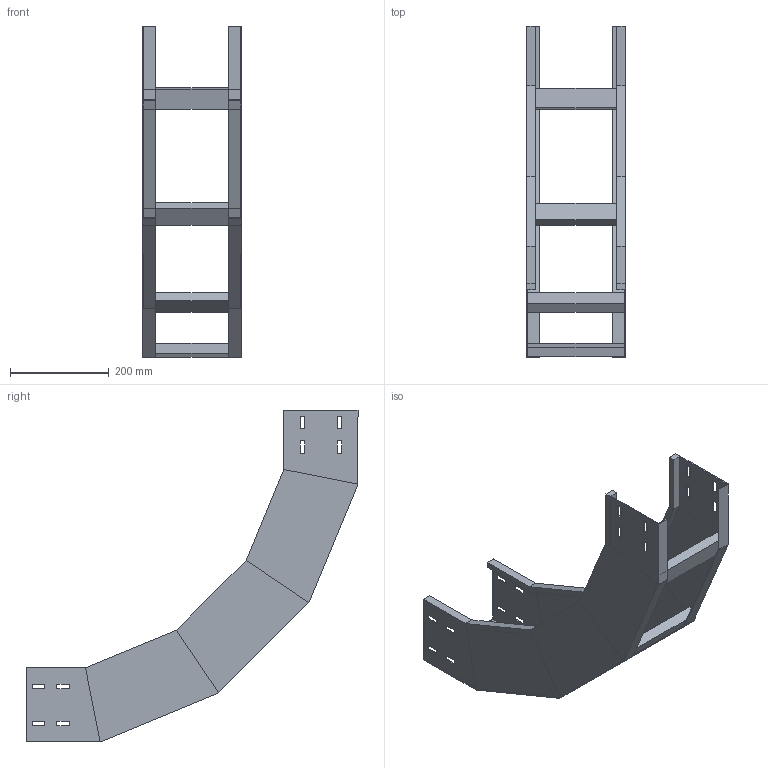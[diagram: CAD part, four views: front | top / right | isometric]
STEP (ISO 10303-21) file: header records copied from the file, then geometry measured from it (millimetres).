
FILE_DESCRIPTION (( 'STEP AP214' ), '1' );
FILE_NAME ('30J5F200.step', '2025-02-21T16:27:14', ( '' ), ( '' ), 'SwSTEP 2.0', 'SolidWorks 2023', '' );
FILE_SCHEMA (( 'AUTOMOTIVE_DESIGN' ));
Length unit declared in the file: millimetre
Products named in the file (3): 30J5F200; LONGH.SALITA_90°_H150_R500; TRAVERSINO_200
Assembly tree (6 placements, depth 2):
  30J5F200
    LONGH.SALITA_90°_H150_R500  x2
    TRAVERSINO_200  x4
Bounding box: 200 x 671.54 x 671.54 mm (x, y, z)
Volume: 1635548 mm3; surface area: 842544.2 mm2
Topology: 6 solids, 6 shells, 172 faces, 416 edges, 256 vertices
Faces by surface type: plane 172
Entity records: 2416 total; most frequent: CARTESIAN_POINT 405, ORIENTED_EDGE 392, DIRECTION 374, EDGE_CURVE 196, LINE 196, VECTOR 196, VERTEX_POINT 120, EDGE_LOOP 96
